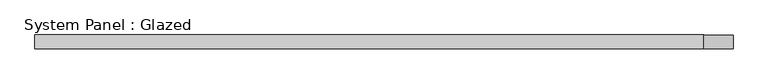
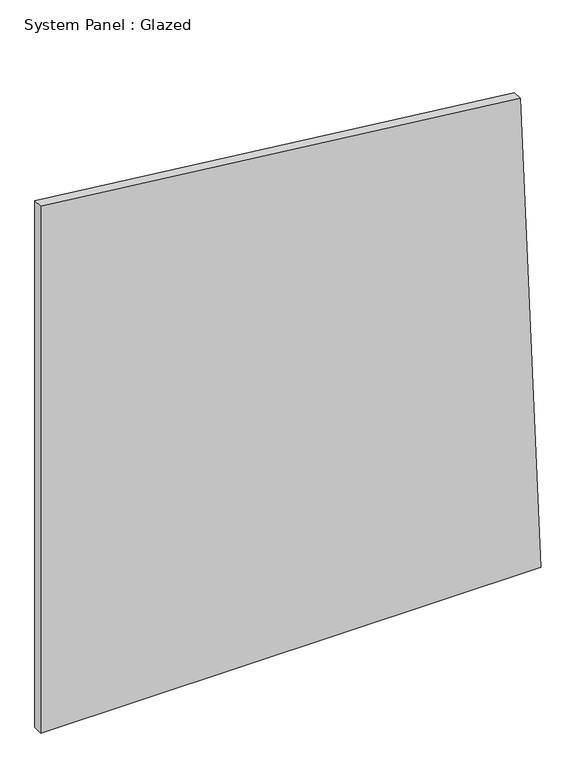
"""IFC4 building model written with IfcOpenShell, lengths in millimetres: plate geometry, System Panel : Glazed."""

from ifc_helpers import new_model, si_unit, frame, origin, place, context, project, spatial, polyline, outline, extrude, source, transform, mapped, element, save


def system_panel_glazed_a3a0f749(model_context):
    return source(origin(), model_context, "Body", "SweptSolid", [
        extrude(outline(polyline([(0.0, -646.1515449), (0.0, 646.1515449), (1298.0389092, 592.0838972), (1436.5332828, -646.1515449), (0.0, -646.1515449)])), frame((0.0, -44.45, 0.0), z_axis=(0.0, 1.0, 0.0), x_axis=(0.0, 0.0, 1.0)), (0.0, 0.0, 1.0), 25.4),
    ])


if __name__ == "__main__":
    model = new_model("IFC4")
    model_context = context("Model", 3, world=origin())
    ifc_project = project(units=[si_unit("LENGTHUNIT", "METRE", prefix="MILLI")], contexts=[model_context])
    site = spatial("IfcSite", under=ifc_project)
    building = spatial("IfcBuilding", under=site)
    placement = place(None, origin())
    system_panel_glazed_shape = system_panel_glazed_a3a0f749(model_context)
    element("IfcPlate", 1, ObjectType="System Panel : Glazed", at=placement, inside=building, context=model_context, shape_type="MappedRepresentation", body=[
        mapped(system_panel_glazed_shape, transform((0.0, 0.0, 0.0), x_axis=(1.0, 0.0, 0.0), y_axis=(0.0, 1.0, 0.0), z_axis=(0.0, 0.0, 1.0))),
    ])
    save(model, "model.ifc")
